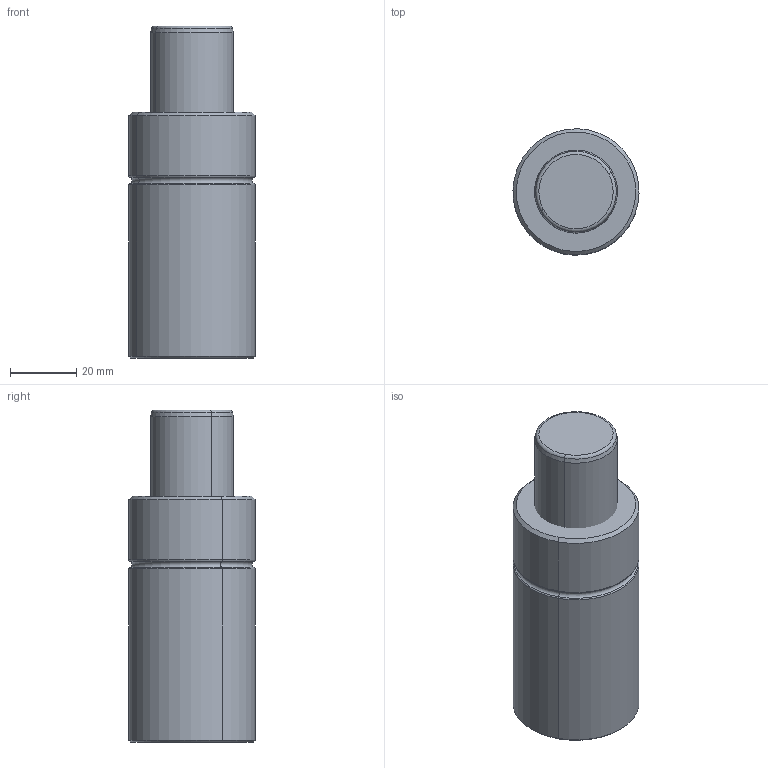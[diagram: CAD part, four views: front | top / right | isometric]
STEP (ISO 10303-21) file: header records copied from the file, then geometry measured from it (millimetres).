
FILE_DESCRIPTION(('CATIA V5 STEP Exchange'),'2;1');
FILE_NAME('W:\CATALOGO GENERAL 2018\FICHEROS CAD\003-TPH\TPH 850\TPH 850x25.stp','2017-10-30T09:15:53+00:00',('none'),('none'),'CATIA Version 5 Release 17 (IN-10)','CATIA V5 STEP AP203','none');
FILE_SCHEMA(('CONFIG_CONTROL_DESIGN'));
Length unit declared in the file: millimetre
Products named in the file (1): TPH 850x25
Assembly tree (2 placements, depth 2):
  TPH 850x25
    #56
    #489
Bounding box: 37.99 x 37.99 x 100 mm (x, y, z)
Volume: 109786.4 mm3; surface area: 17288.5 mm2
Topology: 2 solids, 2 shells, 47 faces, 90 edges, 52 vertices
Faces by surface type: cylinder 16, torus 14, plane 9, cone 8
Entity records: 1117 total; most frequent: ORIENTED_EDGE 180, CARTESIAN_POINT 173, DIRECTION 152, AXIS2_PLACEMENT_3D 97, EDGE_CURVE 90, CIRCLE 66, EDGE_LOOP 52, VERTEX_POINT 52
